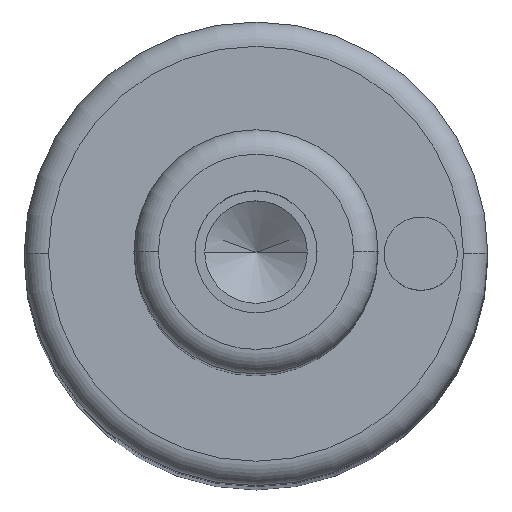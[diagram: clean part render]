
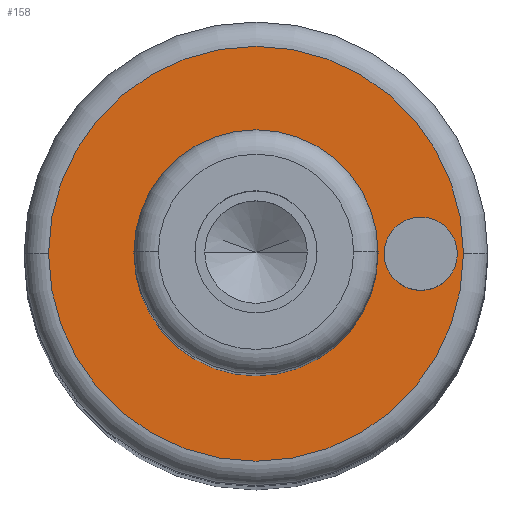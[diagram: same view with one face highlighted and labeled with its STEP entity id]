
A CAD part, top view. The second image highlights one B-rep face of the part: STEP entity #158.
In plain terms, the highlighted planar face has unit normal (0, 0, 1).
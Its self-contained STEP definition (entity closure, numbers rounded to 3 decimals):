
#105=PLANE('',#628);
#113=FACE_BOUND('',#229,.T.);
#114=FACE_BOUND('',#230,.T.);
#115=FACE_BOUND('',#231,.T.);
#158=ADVANCED_FACE('',(#113,#114,#115),#105,.T.);
#229=EDGE_LOOP('',(#375,#376));
#230=EDGE_LOOP('',(#377,#378));
#231=EDGE_LOOP('',(#379,#380));
#259=CIRCLE('',#596,5.);
#260=CIRCLE('',#598,5.);
#264=CIRCLE('',#603,8.5);
#265=CIRCLE('',#605,8.5);
#277=CIRCLE('',#626,1.5);
#278=CIRCLE('',#627,1.5);
#375=ORIENTED_EDGE('',*,*,#488,.F.);
#376=ORIENTED_EDGE('',*,*,#489,.F.);
#377=ORIENTED_EDGE('',*,*,#507,.F.);
#378=ORIENTED_EDGE('',*,*,#508,.F.);
#379=ORIENTED_EDGE('',*,*,#484,.T.);
#380=ORIENTED_EDGE('',*,*,#482,.T.);
#434=VERTEX_POINT('',#875);
#435=VERTEX_POINT('',#877);
#436=VERTEX_POINT('',#883);
#439=VERTEX_POINT('',#888);
#448=VERTEX_POINT('',#927);
#449=VERTEX_POINT('',#928);
#482=EDGE_CURVE('',#435,#434,#259,.T.);
#484=EDGE_CURVE('',#434,#435,#260,.T.);
#488=EDGE_CURVE('',#439,#436,#264,.T.);
#489=EDGE_CURVE('',#436,#439,#265,.T.);
#507=EDGE_CURVE('',#448,#449,#277,.T.);
#508=EDGE_CURVE('',#449,#448,#278,.T.);
#596=AXIS2_PLACEMENT_3D('',#876,#707,#708);
#598=AXIS2_PLACEMENT_3D('',#880,#712,#713);
#603=AXIS2_PLACEMENT_3D('',#889,#722,#723);
#605=AXIS2_PLACEMENT_3D('',#891,#726,#727);
#626=AXIS2_PLACEMENT_3D('',#926,#774,#775);
#627=AXIS2_PLACEMENT_3D('',#929,#776,#777);
#628=AXIS2_PLACEMENT_3D('',#930,#778,#779);
#707=DIRECTION('',(0.,0.,-1.));
#708=DIRECTION('',(0.,1.,0.));
#712=DIRECTION('',(0.,0.,-1.));
#713=DIRECTION('',(0.,-1.,0.));
#722=DIRECTION('',(0.,0.,-1.));
#723=DIRECTION('',(0.,1.,0.));
#726=DIRECTION('',(0.,0.,-1.));
#727=DIRECTION('',(0.,-1.,0.));
#774=DIRECTION('',(0.,0.,1.));
#775=DIRECTION('',(0.,1.,0.));
#776=DIRECTION('',(0.,0.,1.));
#777=DIRECTION('',(0.,-1.,0.));
#778=DIRECTION('',(0.,0.,1.));
#779=DIRECTION('',(0.,-1.,0.));
#875=CARTESIAN_POINT('',(-5.,0.,103.));
#876=CARTESIAN_POINT('',(0.,0.,103.));
#877=CARTESIAN_POINT('',(5.,0.,103.));
#880=CARTESIAN_POINT('',(0.,0.,103.));
#883=CARTESIAN_POINT('',(-8.5,0.,103.));
#888=CARTESIAN_POINT('',(8.5,0.,103.));
#889=CARTESIAN_POINT('',(0.,0.,103.));
#891=CARTESIAN_POINT('',(0.,0.,103.));
#926=CARTESIAN_POINT('',(6.75,0.,103.));
#927=CARTESIAN_POINT('',(5.25,0.,103.));
#928=CARTESIAN_POINT('',(8.25,0.,103.));
#929=CARTESIAN_POINT('',(6.75,0.,103.));
#930=CARTESIAN_POINT('',(0.,0.,103.));
